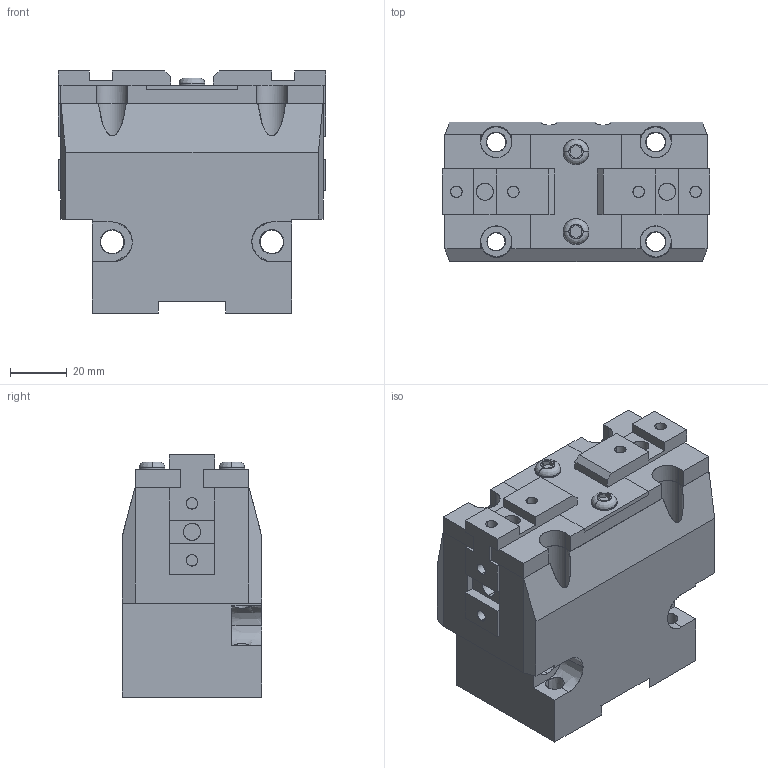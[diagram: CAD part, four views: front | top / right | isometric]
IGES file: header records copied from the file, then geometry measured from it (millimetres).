
Global section: file name: C:\Documents and Settings\Administrateur\Mes documents\OPE-95-SX-CLOSED.igs; native system: AutoCAD-16.0s (LMS Tech) (Microsoft Windows NT Version 5.1 (x86)); preprocessor: Autodesk IGES Translator Mechanical Desktop.R7.0.43.0 (Mar 18 2003) from Autodesk, Inc.; date: 20050629.074240; units: millimetre
Bounding box: 94 x 49 x 85 mm (x, y, z)
Surface area: 68019.4 mm2 (no closed solid volume)
Topology: 0 solids, 0 shells, 265 faces, 2511 edges, 2609 vertices
Faces by surface type: bspline 265
